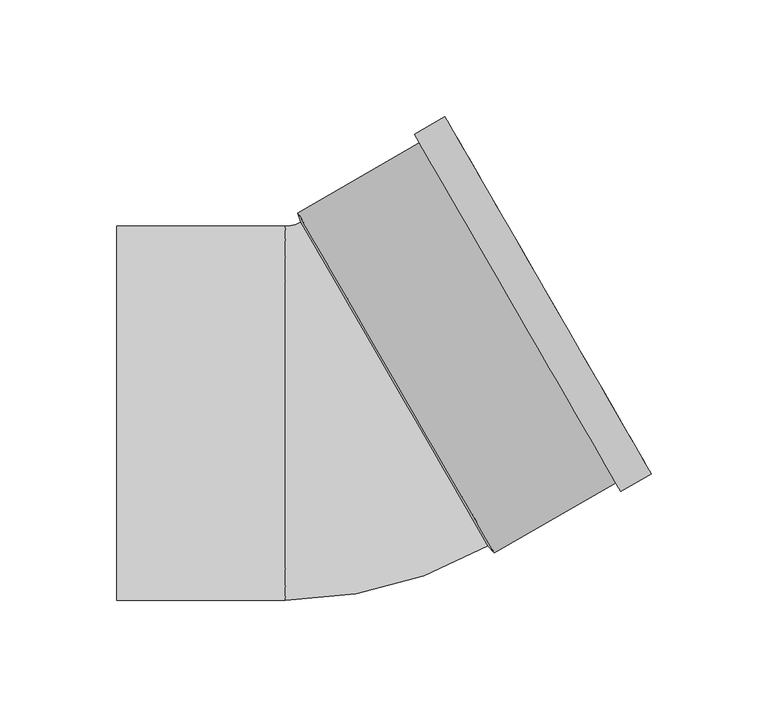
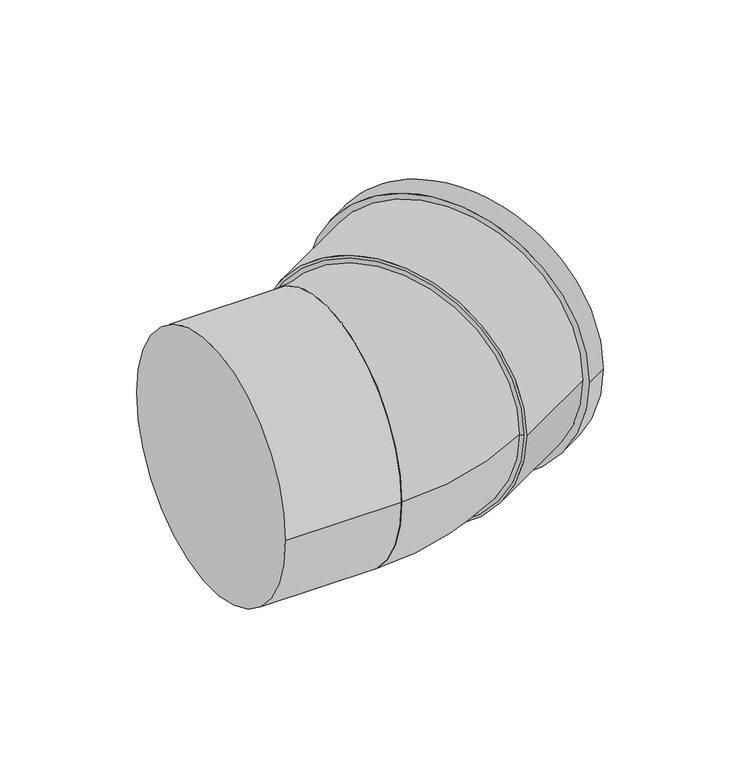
"""IFC4 building model written with IfcOpenShell, lengths in millimetres: pipe fitting geometry, Superdrain HT bend : Superdrain HT Bend."""

from ifc_helpers import new_model, si_unit, point, frame, origin, origin_2d, place, context, project, spatial, polyline, circle_curve, ellipse_curve, trimmed, segment, composite_curve, outline, extrude, source, transform, mapped, element, save
from ifc_brep_helpers import plane_surface, revolved_surface, advanced_brep


def pipe_fitting_70a45752(model_context):
    return source(origin(), model_context, "Body", "SolidModel", [
        advanced_brep(
        [(61.5640326, -56.8320323, 0.0), (-18.4359674, 81.7320323, 0.0), (-24.9, -80.0, 0.0), (-24.9, 80.0, 0.0)],
        [
            (0, 1, circle_curve(frame((21.5640326, 12.45, 0.0), z_axis=(0.8660254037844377, 0.5000000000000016, 0.0), x_axis=(-0.5000000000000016, 0.8660254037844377, 0.0)), 80.0)),
            (1, 0, circle_curve(frame((21.5640326, 12.45, 0.0), z_axis=(0.8660254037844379, 0.5000000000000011, 0.0), x_axis=(-0.5000000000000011, 0.8660254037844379, 0.0)), 80.0)),
            (2, 3, circle_curve(frame((-24.9, 0.0, 0.0), z_axis=(-1.0, 0.0, 0.0), x_axis=(0.0, 1.0, 0.0)), 80.0)),
            (3, 2, circle_curve(frame((-24.9, 0.0, 0.0), z_axis=(-1.0, 0.0, 0.0), x_axis=(0.0, 1.0, 0.0)), 80.0)),
            (3, 1, circle_curve(frame((-24.9, 92.9280651, 0.0), z_axis=(0.0, 0.0, 1.0), x_axis=(1.0, 0.0, 0.0)), 12.9280651)),
            (0, 2, circle_curve(frame((-24.9, 92.9280651, 0.0), z_axis=(0.0, 0.0, -1.0), x_axis=(1.0, 0.0, 0.0)), 172.9280651)),
        ],
        [
            plane_surface(frame((21.5640326, 12.45, 0.0), z_axis=(0.8660254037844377, 0.5000000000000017, 0.0), x_axis=(0.0, 0.0, -1.0))),
            plane_surface(frame((-24.9, 0.0, 0.0), z_axis=(-1.0, 0.0, 0.0), x_axis=(0.0, 0.0, -1.0))),
            revolved_surface(trimmed(ellipse_curve(frame((68.0280651, 92.9280651, 0.0), z_axis=(0.0, -1.0, 0.0), x_axis=(-1.0, 0.0, 0.0)), 80.0, 80.0), [point((-11.9719349, 92.9280651, 0.0))], [point((148.0280651, 92.9280651, 0.0))], True, "CARTESIAN"), (-24.9, 92.9280651, 0.0), (0.0, 0.0, 1.0)),
            revolved_surface(trimmed(ellipse_curve(frame((68.0280651, 92.9280651, 0.0), z_axis=(0.0, -1.0, 0.0), x_axis=(-1.0, 0.0, 0.0)), 80.0, 80.0), [point((148.0280651, 92.9280651, 0.0))], [point((-11.9719349, 92.9280651, 0.0))], True, "CARTESIAN"), (-24.9, 92.9280651, 0.0), (0.0, 0.0, 1.0)),
        ],
        [
            (0, [[1, 2]]),
            (1, [[3, 4]]),
            (2, [[-4, 5, -1, 6]]),
            (3, [[-3, -6, -2, -5]]),
        ],
    ),
        extrude(outline(composite_curve([segment(trimmed(circle_curve(origin_2d(), 84.0), [point((0.0, 84.0))], [point((0.0, -84.0))], False, "CARTESIAN"), True, "CONTINUOUS"), segment(trimmed(circle_curve(origin_2d(), 84.0), [point((0.0, -84.0))], [point((0.0, 84.0))], False, "CARTESIAN"), True, "CONTINUOUS")], self_intersect=False), holes=[composite_curve([segment(trimmed(circle_curve(origin_2d(), 80.0), [point((0.0, 80.0))], [point((0.0, -80.0))], True, "CARTESIAN"), True, "CONTINUOUS"), segment(trimmed(circle_curve(origin_2d(), 80.0), [point((0.0, -80.0))], [point((0.0, 80.0))], True, "CARTESIAN"), True, "CONTINUOUS")], self_intersect=False)]), frame((22.430058, 12.95, 0.0), z_axis=(0.8660254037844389, 0.4999999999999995, 0.0), x_axis=(0.0, 0.0, 1.0)), (0.0, 0.0, 1.0), 75.0),
        extrude(outline(composite_curve([segment(trimmed(circle_curve(origin_2d(), 88.2), [point((0.0, -88.2))], [point((0.0, 88.2))], False, "CARTESIAN"), True, "CONTINUOUS"), segment(trimmed(circle_curve(origin_2d(), 88.2), [point((0.0, 88.2))], [point((0.0, -88.2))], False, "CARTESIAN"), True, "CONTINUOUS")], self_intersect=False), holes=[composite_curve([segment(trimmed(circle_curve(origin_2d(), 80.0), [point((0.0, -80.0))], [point((0.0, 80.0))], True, "CARTESIAN"), True, "CONTINUOUS"), segment(trimmed(circle_curve(origin_2d(), 80.0), [point((0.0, 80.0))], [point((0.0, -80.0))], True, "CARTESIAN"), True, "CONTINUOUS")], self_intersect=False)]), frame((74.3915822, 42.95, 0.0), z_axis=(0.8660254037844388, 0.4999999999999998, 0.0), x_axis=(0.0, 0.0, 1.0)), (0.0, 0.0, 1.0), 15.0),
        advanced_brep(
        [(64.430058, -59.7961339, 0.0), (-19.569942, 85.6961339, 0.0), (61.5640326, -56.8320323, 0.0), (-18.4359674, 81.7320323, 0.0)],
        [
            (0, 1, circle_curve(frame((22.430058, 12.95, 0.0), z_axis=(0.8660254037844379, 0.5000000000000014, 0.0), x_axis=(0.5000000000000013, -0.8660254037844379, 0.0)), 84.0)),
            (1, 0, circle_curve(frame((22.430058, 12.95, 0.0), z_axis=(0.8660254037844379, 0.5000000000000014, 0.0), x_axis=(-0.5000000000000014, 0.8660254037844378, 0.0)), 84.0)),
            (2, 3, circle_curve(frame((21.5640326, 12.45, 0.0), z_axis=(-0.8660254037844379, -0.5000000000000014, 0.0), x_axis=(-0.5000000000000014, 0.8660254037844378, 0.0)), 80.0)),
            (3, 2, circle_curve(frame((21.5640326, 12.45, 0.0), z_axis=(-0.8660254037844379, -0.5000000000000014, 0.0), x_axis=(0.5000000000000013, -0.8660254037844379, 0.0)), 80.0)),
            (3, 1),
            (0, 2),
        ],
        [
            plane_surface(frame((22.430058, 12.95, 0.0), z_axis=(0.8660254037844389, 0.49999999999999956, 0.0), x_axis=(0.0, 0.0, -1.0))),
            plane_surface(frame((21.5640326, 12.45, 0.0), z_axis=(-0.8660254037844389, -0.49999999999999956, 0.0), x_axis=(0.0, 0.0, -1.0))),
            revolved_surface(polyline([(-18.43596741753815, 81.73203233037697, 0.0), (-19.569942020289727, 85.69613397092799, 0.0)]), (4.2435245, 2.45, 0.0), (0.8660254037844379, 0.5000000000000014, 0.0)),
            revolved_surface(polyline([(61.564032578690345, -56.832032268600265, 0.0), (64.430058, -59.7961339, 0.0)]), (4.2435245, 2.45, 0.0), (0.8660254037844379, 0.5000000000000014, 0.0)),
        ],
        [
            (0, [[1, 2]]),
            (1, [[3, 4]]),
            (2, [[-4, 5, -1, 6]]),
            (3, [[-3, -6, -2, -5]]),
        ],
    ),
        extrude(outline(composite_curve([segment(trimmed(circle_curve(origin_2d(), 80.0), [point((-80.0, 0.0))], [point((80.0, 0.0))], False, "CARTESIAN"), True, "CONTINUOUS"), segment(trimmed(circle_curve(origin_2d(), 80.0), [point((80.0, 0.0))], [point((-80.0, 0.0))], False, "CARTESIAN"), True, "CONTINUOUS")], self_intersect=False)), frame((-97.0, 0.0, 0.0), z_axis=(1.0, 0.0, 0.0), x_axis=(0.0, 1.0, 0.0)), (0.0, 0.0, 1.0), 72.1),
    ])


if __name__ == "__main__":
    model = new_model("IFC4")
    model_context = context("Model", 3, world=origin())
    ifc_project = project(units=[si_unit("LENGTHUNIT", "METRE", prefix="MILLI")], contexts=[model_context])
    site = spatial("IfcSite", under=ifc_project)
    building = spatial("IfcBuilding", under=site)
    placement = place(None, origin())
    pipe_fitting_shape = pipe_fitting_70a45752(model_context)
    element("IfcPipeFitting", 1, ObjectType="Superdrain HT bend : Superdrain HT Bend", at=placement, inside=building, context=model_context, shape_type="MappedRepresentation", body=[
        mapped(pipe_fitting_shape, transform((0.0, 0.0, 0.0), x_axis=(1.0, 0.0, 0.0), y_axis=(0.0, 1.0, 0.0), z_axis=(0.0, 0.0, 1.0))),
    ])
    save(model, "model.ifc")
